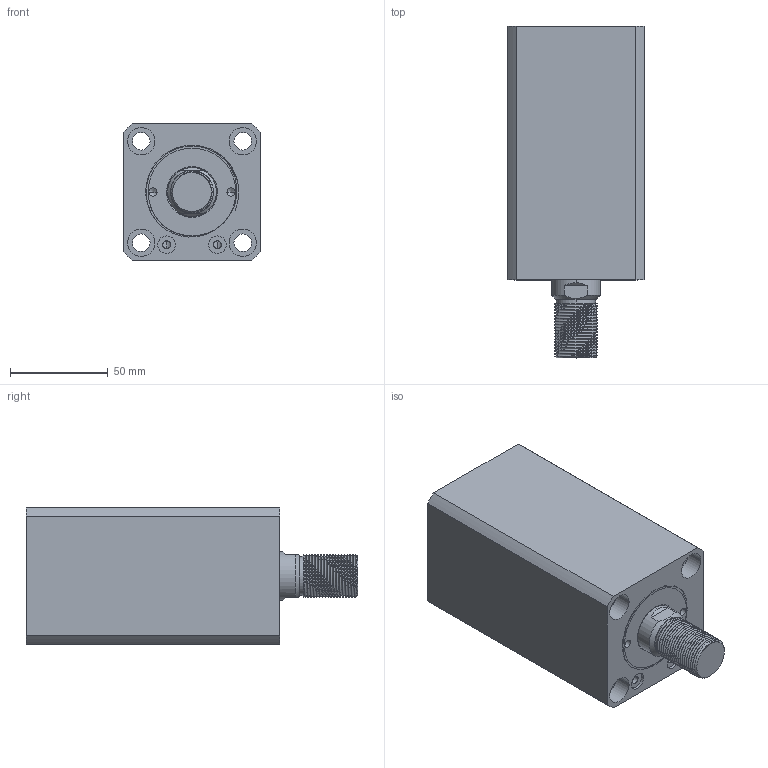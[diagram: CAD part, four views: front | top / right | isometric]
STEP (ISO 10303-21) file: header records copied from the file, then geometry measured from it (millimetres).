
FILE_DESCRIPTION (( 'STEP AP214' ), '1' );
FILE_NAME ('chtb-sdma40x75w_asm.STEP', '2018-06-06T02:08:06', ( 'Windows' ), ( 'Microsoft' ), 'SwSTEP 2.0', 'SolidWorks 2015', '' );
FILE_SCHEMA (( 'AUTOMOTIVE_DESIGN' ));
Length unit declared in the file: millimetre
Products named in the file (4): CHTB-SD40QG; CHTB-SDMA40X75NBT; CHTB-SD40X75WHSG; chtb-sdma40x75w_asm
Assembly tree (3 placements, depth 2):
  chtb-sdma40x75w_asm
    CHTB-SD40X75WHSG
    CHTB-SDMA40X75NBT
    CHTB-SD40QG
Bounding box: 70 x 170 x 70 mm (x, y, z)
Volume: 543601.5 mm3; surface area: 107372.4 mm2
Topology: 3 solids, 4 shells, 203 faces, 545 edges, 363 vertices
Faces by surface type: cylinder 122, plane 40, bspline 16, torus 14, cone 11
Entity records: 13587 total; most frequent: CARTESIAN_POINT 8658, ORIENTED_EDGE 1078, DIRECTION 914, EDGE_CURVE 539, AXIS2_PLACEMENT_3D 378, VERTEX_POINT 363, EDGE_LOOP 240, ADVANCED_FACE 203
